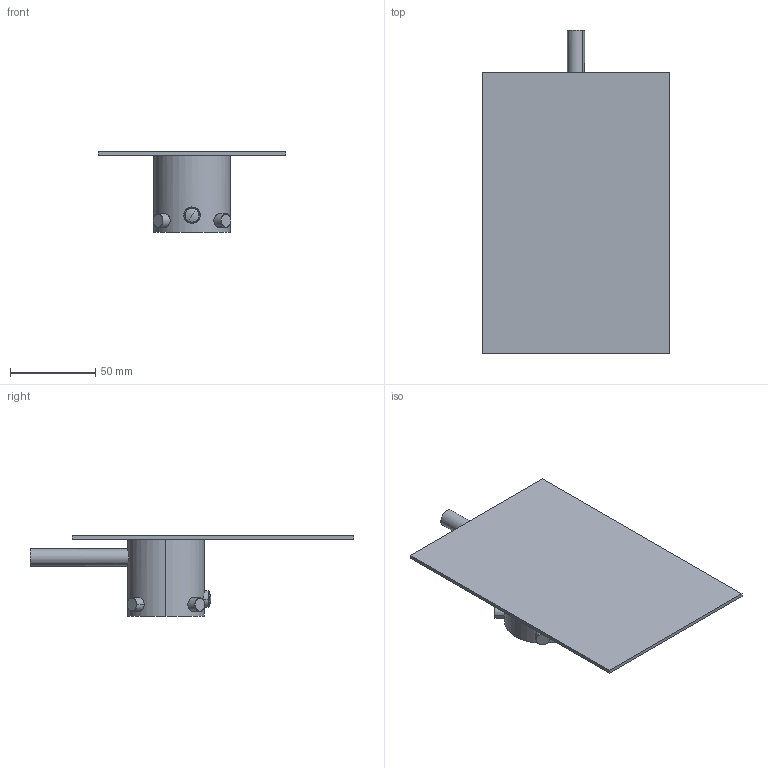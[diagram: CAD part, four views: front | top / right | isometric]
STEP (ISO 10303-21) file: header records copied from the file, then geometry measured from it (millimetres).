
FILE_DESCRIPTION (( 'STEP AP214' ), '1' );
FILE_NAME ('13220510 x architetti.STEP', '2024-09-25T07:24:08', ( '' ), ( '' ), 'SwSTEP 2.0', 'SolidWorks 2020', '' );
FILE_SCHEMA (( 'AUTOMOTIVE_DESIGN' ));
Length unit declared in the file: millimetre
Products named in the file (1): 13220510 x architetti
Bounding box: 110 x 189.49 x 47.1 mm (x, y, z)
Volume: 112962.6 mm3; surface area: 47368.4 mm2
Topology: 1 solids, 7 shells, 82 faces, 184 edges, 110 vertices
Faces by surface type: cylinder 40, plane 18, torus 10, cone 10, bspline 4
Entity records: 3771 total; most frequent: CARTESIAN_POINT 1206, DIRECTION 362, ORIENTED_EDGE 344, EDGE_CURVE 172, AXIS2_PLACEMENT_3D 148, VERTEX_POINT 110, EDGE_LOOP 92, ADVANCED_FACE 82
